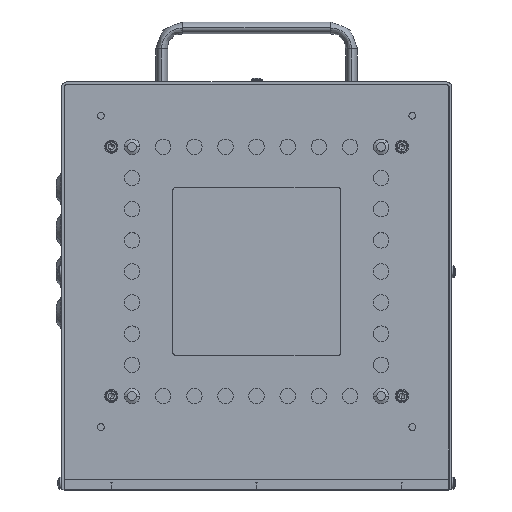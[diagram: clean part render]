
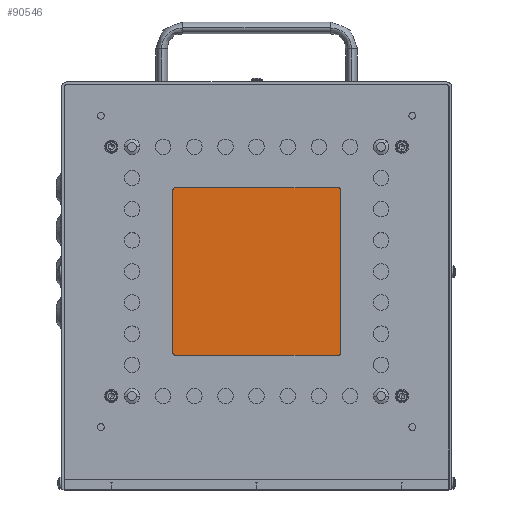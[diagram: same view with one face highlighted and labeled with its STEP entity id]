
A CAD part, top view. The second image highlights one B-rep face of the part: STEP entity #90546.
In plain terms, the highlighted planar face has unit normal (0, 0, 1).
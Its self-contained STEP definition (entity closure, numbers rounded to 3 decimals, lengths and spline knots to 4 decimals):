
#249 = CARTESIAN_POINT ( 'NONE',  ( -2.5, 7.75, 2.062 ) ) ;
#3569 = CARTESIAN_POINT ( 'NONE',  ( -2.5, 2.75, 2.062 ) ) ;
#6192 = VECTOR ( 'NONE', #44673, 39.3701 ) ;
#6240 = VECTOR ( 'NONE', #121062, 39.3701 ) ;
#8431 = FACE_OUTER_BOUND ( 'NONE', #91558, .T. ) ;
#11096 = VECTOR ( 'NONE', #43488, 39.3701 ) ;
#13975 = EDGE_CURVE ( 'NONE', #67085, #52341, #76959, .T. ) ;
#17559 = EDGE_CURVE ( 'NONE', #44896, #117274, #110497, .T. ) ;
#26619 = EDGE_CURVE ( 'NONE', #52341, #44896, #89269, .T. ) ;
#28118 = CARTESIAN_POINT ( 'NONE',  ( 2.5, 2.75, 2.062 ) ) ;
#33974 = CARTESIAN_POINT ( 'NONE',  ( 2.5, 7.75, 2.062 ) ) ;
#42486 = DIRECTION ( 'NONE',  ( 1., 0., 0. ) ) ;
#43488 = DIRECTION ( 'NONE',  ( -1., 0., 0. ) ) ;
#44673 = DIRECTION ( 'NONE',  ( 0., -1., 0. ) ) ;
#44896 = VERTEX_POINT ( 'NONE', #249 ) ;
#48636 = DIRECTION ( 'NONE',  ( 0., 1., 0. ) ) ;
#52341 = VERTEX_POINT ( 'NONE', #33974 ) ;
#65632 = EDGE_CURVE ( 'NONE', #117274, #67085, #84489, .T. ) ;
#67085 = VERTEX_POINT ( 'NONE', #28118 ) ;
#71600 = ORIENTED_EDGE ( 'NONE', *, *, #17559, .T. ) ;
#71631 = CARTESIAN_POINT ( 'NONE',  ( -2.5, 2.75, 2.062 ) ) ;
#76959 = LINE ( 'NONE', #77785, #96915 ) ;
#77785 = CARTESIAN_POINT ( 'NONE',  ( 2.5, 7.75, 2.062 ) ) ;
#81912 = ORIENTED_EDGE ( 'NONE', *, *, #13975, .T. ) ;
#83630 = ORIENTED_EDGE ( 'NONE', *, *, #65632, .T. ) ;
#84489 = LINE ( 'NONE', #3569, #6240 ) ;
#89269 = LINE ( 'NONE', #112090, #11096 ) ;
#90546 = ADVANCED_FACE ( 'NONE', ( #8431 ), #91339, .T. ) ;
#91339 = PLANE ( 'NONE',  #123585 ) ;
#91558 = EDGE_LOOP ( 'NONE', ( #71600, #83630, #81912, #126607 ) ) ;
#93554 = CARTESIAN_POINT ( 'NONE',  ( -2.5, 7.75, 2.062 ) ) ;
#94206 = CARTESIAN_POINT ( 'NONE',  ( -2.5, 2.75, 2.062 ) ) ;
#96915 = VECTOR ( 'NONE', #48636, 39.3701 ) ;
#101222 = DIRECTION ( 'NONE',  ( 0., 0., 1. ) ) ;
#110497 = LINE ( 'NONE', #93554, #6192 ) ;
#112090 = CARTESIAN_POINT ( 'NONE',  ( -2.5, 7.75, 2.062 ) ) ;
#117274 = VERTEX_POINT ( 'NONE', #94206 ) ;
#121062 = DIRECTION ( 'NONE',  ( 1., 0., 0. ) ) ;
#123585 = AXIS2_PLACEMENT_3D ( 'NONE', #71631, #101222, #42486 ) ;
#126607 = ORIENTED_EDGE ( 'NONE', *, *, #26619, .T. ) ;
